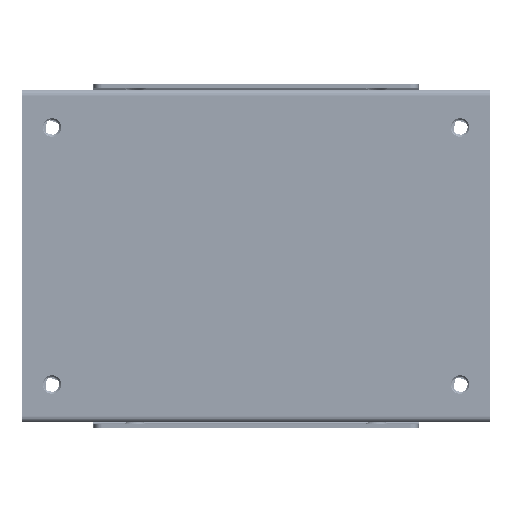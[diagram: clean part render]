
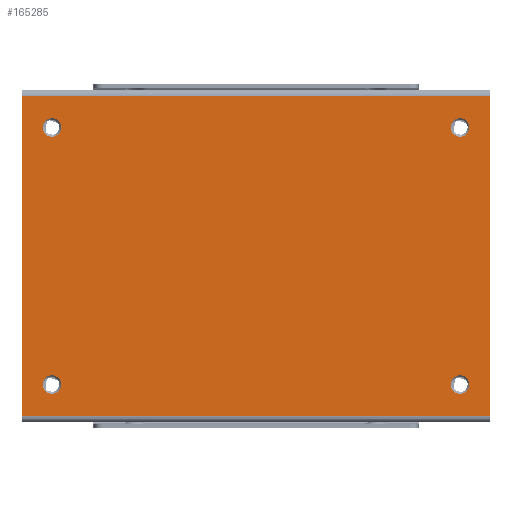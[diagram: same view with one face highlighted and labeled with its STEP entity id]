
A CAD part, front view. The second image highlights one B-rep face of the part: STEP entity #165285.
In plain terms, the highlighted planar face has unit normal (0, -1, 0).
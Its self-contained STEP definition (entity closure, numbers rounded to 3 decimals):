
#954 = VECTOR ( 'NONE', #122738, 1000. ) ;
#3592 = VECTOR ( 'NONE', #148475, 1000. ) ;
#6472 = CARTESIAN_POINT ( 'NONE',  ( -44.189, -13.089, 105.194 ) ) ;
#6882 = EDGE_CURVE ( 'NONE', #154510, #173891, #56670, .T. ) ;
#8230 = EDGE_CURVE ( 'NONE', #154606, #118267, #163536, .T. ) ;
#8786 = CARTESIAN_POINT ( 'NONE',  ( -45.531, -13.089, 147.599 ) ) ;
#9453 = EDGE_LOOP ( 'NONE', ( #29573, #55670 ) ) ;
#12328 = CIRCLE ( 'NONE', #138671, 1.55 ) ;
#12545 = CARTESIAN_POINT ( 'NONE',  ( -42.846, -13.089, 149.149 ) ) ;
#12569 = LINE ( 'NONE', #38077, #23319 ) ;
#15519 = CARTESIAN_POINT ( 'NONE',  ( 25.734, -13.089, 105.969 ) ) ;
#16948 = EDGE_CURVE ( 'NONE', #173891, #154510, #12328, .T. ) ;
#17212 = FACE_BOUND ( 'NONE', #105352, .T. ) ;
#18066 = CARTESIAN_POINT ( 'NONE',  ( 24.391, -13.089, 105.194 ) ) ;
#18794 = DIRECTION ( 'NONE',  ( 0., 1., 0. ) ) ;
#23319 = VECTOR ( 'NONE', #158545, 1000. ) ;
#26848 = CIRCLE ( 'NONE', #161641, 1.55 ) ;
#27399 = CARTESIAN_POINT ( 'NONE',  ( 29.401, -13.089, 99.834 ) ) ;
#29573 = ORIENTED_EDGE ( 'NONE', *, *, #141912, .T. ) ;
#30279 = CARTESIAN_POINT ( 'NONE',  ( -42.846, -13.089, 105.969 ) ) ;
#31910 = ORIENTED_EDGE ( 'NONE', *, *, #64571, .T. ) ;
#37040 = DIRECTION ( 'NONE',  ( 0., 1., 0. ) ) ;
#38077 = CARTESIAN_POINT ( 'NONE',  ( -49.199, -13.089, 99.834 ) ) ;
#40483 = CIRCLE ( 'NONE', #91052, 1.55 ) ;
#45310 = DIRECTION ( 'NONE',  ( 0., 1., 0. ) ) ;
#45641 = CIRCLE ( 'NONE', #166496, 1.55 ) ;
#47038 = DIRECTION ( 'NONE',  ( 0., 1., 0. ) ) ;
#47743 = VERTEX_POINT ( 'NONE', #27399 ) ;
#51326 = EDGE_CURVE ( 'NONE', #167253, #89203, #75982, .T. ) ;
#51750 = EDGE_CURVE ( 'NONE', #157334, #79316, #105321, .T. ) ;
#55244 = EDGE_CURVE ( 'NONE', #166780, #47743, #12569, .T. ) ;
#55670 = ORIENTED_EDGE ( 'NONE', *, *, #51326, .T. ) ;
#56670 = CIRCLE ( 'NONE', #140913, 1.55 ) ;
#58277 = DIRECTION ( 'NONE',  ( -0.866, 0., -0.5 ) ) ;
#60628 = CARTESIAN_POINT ( 'NONE',  ( 24.391, -13.089, 148.374 ) ) ;
#60877 = ORIENTED_EDGE ( 'NONE', *, *, #8230, .T. ) ;
#63441 = VERTEX_POINT ( 'NONE', #132538 ) ;
#64160 = CARTESIAN_POINT ( 'NONE',  ( 23.049, -13.089, 104.419 ) ) ;
#64571 = EDGE_CURVE ( 'NONE', #63441, #133381, #40483, .T. ) ;
#69939 = LINE ( 'NONE', #164927, #954 ) ;
#69964 = FACE_OUTER_BOUND ( 'NONE', #124130, .T. ) ;
#72952 = DIRECTION ( 'NONE',  ( 0., 1., 0. ) ) ;
#75982 = CIRCLE ( 'NONE', #148964, 1.55 ) ;
#79244 = ORIENTED_EDGE ( 'NONE', *, *, #146725, .T. ) ;
#79316 = VERTEX_POINT ( 'NONE', #99142 ) ;
#80306 = AXIS2_PLACEMENT_3D ( 'NONE', #60628, #72952, #127464 ) ;
#80416 = CARTESIAN_POINT ( 'NONE',  ( 24.391, -13.089, 148.374 ) ) ;
#84871 = PLANE ( 'NONE',  #135131 ) ;
#86629 = FACE_BOUND ( 'NONE', #9453, .T. ) ;
#88961 = DIRECTION ( 'NONE',  ( 0., 1., 0. ) ) ;
#89203 = VERTEX_POINT ( 'NONE', #30279 ) ;
#90279 = VECTOR ( 'NONE', #158094, 1000. ) ;
#91052 = AXIS2_PLACEMENT_3D ( 'NONE', #80416, #146388, #158750 ) ;
#99142 = CARTESIAN_POINT ( 'NONE',  ( -49.199, -13.089, 153.734 ) ) ;
#102136 = ORIENTED_EDGE ( 'NONE', *, *, #6882, .T. ) ;
#103268 = ORIENTED_EDGE ( 'NONE', *, *, #112919, .T. ) ;
#105321 = LINE ( 'NONE', #130840, #90279 ) ;
#105352 = EDGE_LOOP ( 'NONE', ( #123639, #60877 ) ) ;
#105607 = CARTESIAN_POINT ( 'NONE',  ( -44.189, -13.089, 105.194 ) ) ;
#106373 = CARTESIAN_POINT ( 'NONE',  ( 29.401, -13.089, 153.734 ) ) ;
#109099 = CARTESIAN_POINT ( 'NONE',  ( -49.199, -13.089, 99.834 ) ) ;
#110405 = DIRECTION ( 'NONE',  ( -1., 0., 0. ) ) ;
#111934 = CARTESIAN_POINT ( 'NONE',  ( 24.391, -13.089, 105.194 ) ) ;
#112919 = EDGE_CURVE ( 'NONE', #47743, #157334, #69939, .T. ) ;
#114535 = EDGE_LOOP ( 'NONE', ( #79244, #31910 ) ) ;
#117256 = CARTESIAN_POINT ( 'NONE',  ( 25.734, -13.089, 149.149 ) ) ;
#117871 = ORIENTED_EDGE ( 'NONE', *, *, #139224, .F. ) ;
#117953 = DIRECTION ( 'NONE',  ( -0.866, 0., -0.5 ) ) ;
#118267 = VERTEX_POINT ( 'NONE', #15519 ) ;
#118581 = AXIS2_PLACEMENT_3D ( 'NONE', #18066, #125340, #137629 ) ;
#122738 = DIRECTION ( 'NONE',  ( 0., 0., 1. ) ) ;
#123591 = ORIENTED_EDGE ( 'NONE', *, *, #55244, .T. ) ;
#123639 = ORIENTED_EDGE ( 'NONE', *, *, #162683, .T. ) ;
#124130 = EDGE_LOOP ( 'NONE', ( #117871, #123591, #103268, #164811 ) ) ;
#125148 = DIRECTION ( 'NONE',  ( 0., 1., 0. ) ) ;
#125340 = DIRECTION ( 'NONE',  ( 0., 1., 0. ) ) ;
#126210 = CARTESIAN_POINT ( 'NONE',  ( -44.189, -13.089, 148.374 ) ) ;
#127464 = DIRECTION ( 'NONE',  ( -0.866, 0., -0.5 ) ) ;
#129434 = CARTESIAN_POINT ( 'NONE',  ( -44.189, -13.089, 148.374 ) ) ;
#130840 = CARTESIAN_POINT ( 'NONE',  ( -49.199, -13.089, 153.734 ) ) ;
#132538 = CARTESIAN_POINT ( 'NONE',  ( 23.049, -13.089, 147.599 ) ) ;
#132775 = CARTESIAN_POINT ( 'NONE',  ( -49.199, -13.089, 154.734 ) ) ;
#133381 = VERTEX_POINT ( 'NONE', #117256 ) ;
#133677 = CIRCLE ( 'NONE', #80306, 1.55 ) ;
#135131 = AXIS2_PLACEMENT_3D ( 'NONE', #141161, #45310, #110405 ) ;
#137629 = DIRECTION ( 'NONE',  ( -0.866, 0., -0.5 ) ) ;
#137643 = FACE_BOUND ( 'NONE', #143409, .T. ) ;
#138383 = DIRECTION ( 'NONE',  ( -0.866, 0., -0.5 ) ) ;
#138671 = AXIS2_PLACEMENT_3D ( 'NONE', #129434, #88961, #140897 ) ;
#139224 = EDGE_CURVE ( 'NONE', #166780, #79316, #173316, .T. ) ;
#140897 = DIRECTION ( 'NONE',  ( -0.866, 0., -0.5 ) ) ;
#140913 = AXIS2_PLACEMENT_3D ( 'NONE', #126210, #47038, #153437 ) ;
#141161 = CARTESIAN_POINT ( 'NONE',  ( -49.199, -13.089, 154.734 ) ) ;
#141912 = EDGE_CURVE ( 'NONE', #89203, #167253, #26848, .T. ) ;
#143409 = EDGE_LOOP ( 'NONE', ( #146733, #102136 ) ) ;
#146388 = DIRECTION ( 'NONE',  ( 0., 1., 0. ) ) ;
#146725 = EDGE_CURVE ( 'NONE', #133381, #63441, #133677, .T. ) ;
#146733 = ORIENTED_EDGE ( 'NONE', *, *, #16948, .T. ) ;
#148475 = DIRECTION ( 'NONE',  ( 0., 0., 1. ) ) ;
#148964 = AXIS2_PLACEMENT_3D ( 'NONE', #6472, #18794, #138383 ) ;
#152580 = FACE_BOUND ( 'NONE', #114535, .T. ) ;
#153437 = DIRECTION ( 'NONE',  ( -0.866, 0., -0.5 ) ) ;
#154510 = VERTEX_POINT ( 'NONE', #8786 ) ;
#154606 = VERTEX_POINT ( 'NONE', #64160 ) ;
#157334 = VERTEX_POINT ( 'NONE', #106373 ) ;
#158094 = DIRECTION ( 'NONE',  ( -1., 0., 0. ) ) ;
#158545 = DIRECTION ( 'NONE',  ( 1., 0., 0. ) ) ;
#158750 = DIRECTION ( 'NONE',  ( -0.866, 0., -0.5 ) ) ;
#161641 = AXIS2_PLACEMENT_3D ( 'NONE', #105607, #37040, #117953 ) ;
#162683 = EDGE_CURVE ( 'NONE', #118267, #154606, #45641, .T. ) ;
#163536 = CIRCLE ( 'NONE', #118581, 1.55 ) ;
#164811 = ORIENTED_EDGE ( 'NONE', *, *, #51750, .T. ) ;
#164927 = CARTESIAN_POINT ( 'NONE',  ( 29.401, -13.089, 154.734 ) ) ;
#165285 = ADVANCED_FACE ( 'NONE', ( #69964, #86629, #137643, #152580, #17212 ), #84871, .F. ) ;
#166496 = AXIS2_PLACEMENT_3D ( 'NONE', #111934, #125148, #58277 ) ;
#166780 = VERTEX_POINT ( 'NONE', #109099 ) ;
#166958 = CARTESIAN_POINT ( 'NONE',  ( -45.531, -13.089, 104.419 ) ) ;
#167253 = VERTEX_POINT ( 'NONE', #166958 ) ;
#173316 = LINE ( 'NONE', #132775, #3592 ) ;
#173891 = VERTEX_POINT ( 'NONE', #12545 ) ;
